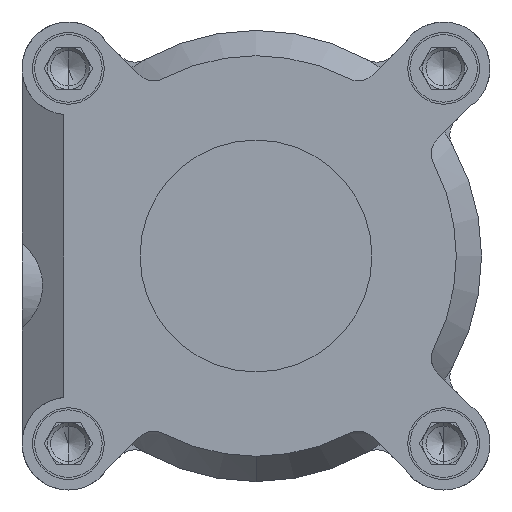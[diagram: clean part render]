
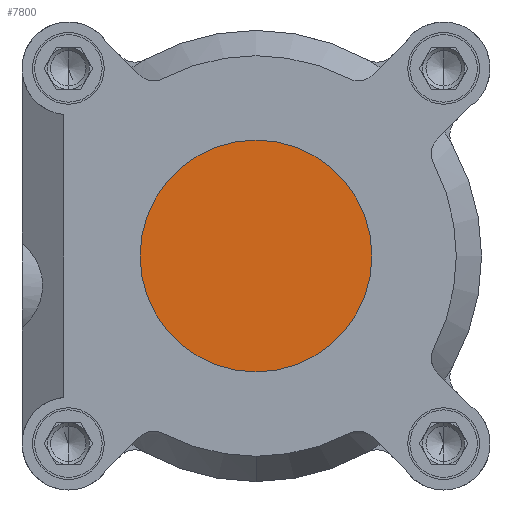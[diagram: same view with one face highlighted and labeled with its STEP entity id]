
A CAD part, left-side view. The second image highlights one B-rep face of the part: STEP entity #7800.
In plain terms, the highlighted planar face has unit normal (-1, 0, 0).
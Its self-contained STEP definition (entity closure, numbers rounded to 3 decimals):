
#282 = DIRECTION ( 'NONE',  ( 0., 0., 1. ) ) ;
#791 = VERTEX_POINT ( 'NONE', #5971 ) ;
#921 = EDGE_CURVE ( 'NONE', #5027, #791, #6286, .T. ) ;
#1731 = AXIS2_PLACEMENT_3D ( 'NONE', #6627, #9636, #282 ) ;
#1878 = CARTESIAN_POINT ( 'NONE',  ( -192., 0., -27.5 ) ) ;
#2028 = EDGE_LOOP ( 'NONE', ( #2334, #10929 ) ) ;
#2033 = DIRECTION ( 'NONE',  ( 0., 0., 1. ) ) ;
#2334 = ORIENTED_EDGE ( 'NONE', *, *, #12109, .T. ) ;
#3307 = DIRECTION ( 'NONE',  ( 0., 0., -1. ) ) ;
#5027 = VERTEX_POINT ( 'NONE', #1878 ) ;
#5118 = CIRCLE ( 'NONE', #7080, 27.5 ) ;
#5410 = FACE_OUTER_BOUND ( 'NONE', #2028, .T. ) ;
#5971 = CARTESIAN_POINT ( 'NONE',  ( -192., 0., 27.5 ) ) ;
#6286 = CIRCLE ( 'NONE', #1731, 27.5 ) ;
#6627 = CARTESIAN_POINT ( 'NONE',  ( -192., 0., 0. ) ) ;
#7080 = AXIS2_PLACEMENT_3D ( 'NONE', #9069, #11257, #2033 ) ;
#7265 = DIRECTION ( 'NONE',  ( 1., 0., 0. ) ) ;
#7800 = ADVANCED_FACE ( 'NONE', ( #5410 ), #13486, .F. ) ;
#9069 = CARTESIAN_POINT ( 'NONE',  ( -192., 0., 0. ) ) ;
#9150 = AXIS2_PLACEMENT_3D ( 'NONE', #12452, #7265, #3307 ) ;
#9636 = DIRECTION ( 'NONE',  ( -1., 0., 0. ) ) ;
#10929 = ORIENTED_EDGE ( 'NONE', *, *, #921, .T. ) ;
#11257 = DIRECTION ( 'NONE',  ( -1., 0., 0. ) ) ;
#12109 = EDGE_CURVE ( 'NONE', #791, #5027, #5118, .T. ) ;
#12452 = CARTESIAN_POINT ( 'NONE',  ( -192., 27.5, 0. ) ) ;
#13486 = PLANE ( 'NONE',  #9150 ) ;
